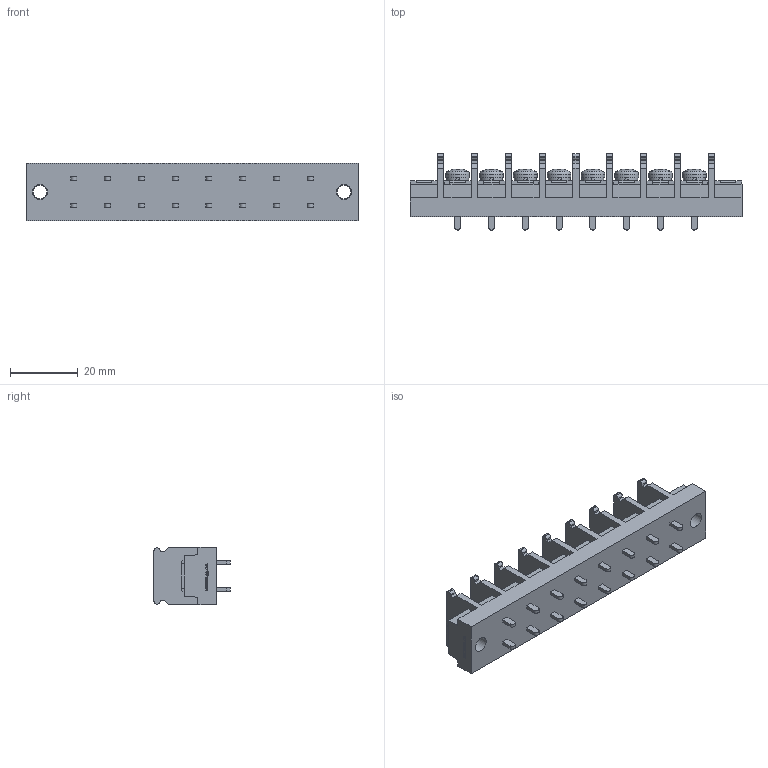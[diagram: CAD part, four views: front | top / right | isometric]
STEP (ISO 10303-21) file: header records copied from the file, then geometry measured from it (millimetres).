
FILE_DESCRIPTION(/* description */ ('Alibre Inc.'),/* implementation_level */ '2;1');
FILE_NAME(/* name */ 'export0',/* time_stamp */ '2015-10-17T15:48:38+09:00',/* author */ (''),/* organization */ (''),/* preprocessor_version */ 'ST-DEVELOPER v14',/* originating_system */ 'Alibre',/* authorisation */ '');
FILE_SCHEMA (('CONFIG_CONTROL_DESIGN'));
Length unit declared in the file: centimetre
Products named in the file (1): ID_1
Bounding box: 98.2 x 22.5 x 17 mm (x, y, z)
Volume: 17902.9 mm3; surface area: 10602.2 mm2
Topology: 1 solids, 17 shells, 1020 faces, 2766 edges, 1836 vertices
Faces by surface type: plane 760, bspline 104, cylinder 100, cone 32, torus 16, sphere 8
Full cylindrical faces by diameter (mm): 4 x10, 4.5 x2, 6.5 x8, 7 x8
Entity records: 31002 total; most frequent: CARTESIAN_POINT 6712, ORIENTED_EDGE 5412, DIRECTION 3928, EDGE_CURVE 2706, VECTOR 1996, LINE 1996, VERTEX_POINT 1812, AXIS2_PLACEMENT_3D 1336
